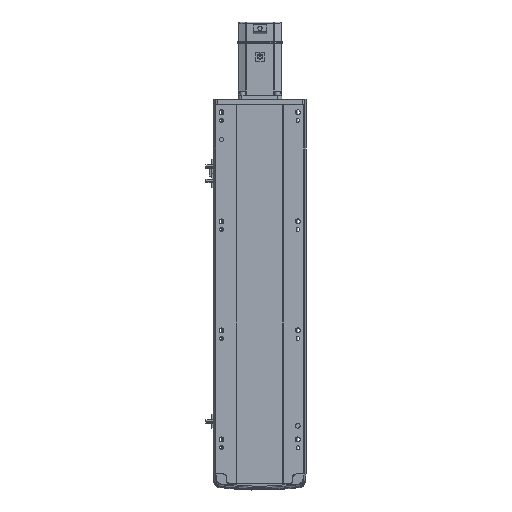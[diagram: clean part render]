
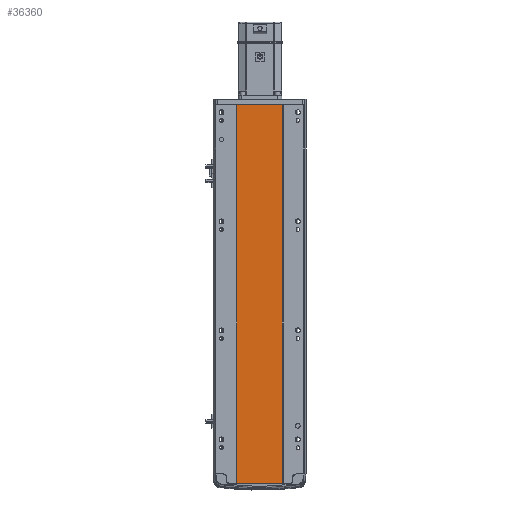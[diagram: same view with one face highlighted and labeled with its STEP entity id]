
A CAD part, front view. The second image highlights one B-rep face of the part: STEP entity #36360.
In plain terms, the highlighted planar face has unit normal (0, -1, 0).
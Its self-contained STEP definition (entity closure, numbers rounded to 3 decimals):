
#3551 = ORIENTED_EDGE ( 'NONE', *, *, #19247, .T. ) ;
#4070 = ORIENTED_EDGE ( 'NONE', *, *, #29257, .T. ) ;
#4577 = CARTESIAN_POINT ( 'NONE',  ( -41.791, 1., 0. ) ) ;
#4785 = ORIENTED_EDGE ( 'NONE', *, *, #34957, .F. ) ;
#6686 = EDGE_LOOP ( 'NONE', ( #3551, #4785, #45138, #4070 ) ) ;
#11199 = VERTEX_POINT ( 'NONE', #44526 ) ;
#12018 = CARTESIAN_POINT ( 'NONE',  ( -41.791, 1., 693.5 ) ) ;
#13053 = CARTESIAN_POINT ( 'NONE',  ( 0., 0.999, 0. ) ) ;
#14044 = PLANE ( 'NONE',  #43651 ) ;
#14556 = DIRECTION ( 'NONE',  ( 0., 1., 0. ) ) ;
#17284 = VECTOR ( 'NONE', #42656, 1000. ) ;
#17852 = DIRECTION ( 'NONE',  ( -1., 0., 0. ) ) ;
#19247 = EDGE_CURVE ( 'NONE', #46987, #11199, #48138, .T. ) ;
#19823 = LINE ( 'NONE', #50308, #17284 ) ;
#19824 = EDGE_CURVE ( 'NONE', #47444, #23774, #28834, .T. ) ;
#21166 = DIRECTION ( 'NONE',  ( 0., 0., -1. ) ) ;
#23774 = VERTEX_POINT ( 'NONE', #28401 ) ;
#25539 = DIRECTION ( 'NONE',  ( 1., 0., 0. ) ) ;
#28401 = CARTESIAN_POINT ( 'NONE',  ( 41.793, 0.998, 693.5 ) ) ;
#28834 = LINE ( 'NONE', #48609, #36930 ) ;
#29257 = EDGE_CURVE ( 'NONE', #47444, #46987, #41991, .T. ) ;
#34957 = EDGE_CURVE ( 'NONE', #23774, #11199, #19823, .T. ) ;
#36360 = ADVANCED_FACE ( 'NONE', ( #43262 ), #14044, .F. ) ;
#36930 = VECTOR ( 'NONE', #25539, 1000. ) ;
#37153 = CARTESIAN_POINT ( 'NONE',  ( -41.791, 1., 693.5 ) ) ;
#38333 = CARTESIAN_POINT ( 'NONE',  ( 0., 0.999, 693.5 ) ) ;
#38828 = VECTOR ( 'NONE', #49010, 1000. ) ;
#41991 = LINE ( 'NONE', #37153, #45709 ) ;
#42656 = DIRECTION ( 'NONE',  ( 0., 0., -1. ) ) ;
#43262 = FACE_OUTER_BOUND ( 'NONE', #6686, .T. ) ;
#43651 = AXIS2_PLACEMENT_3D ( 'NONE', #38333, #14556, #17852 ) ;
#44526 = CARTESIAN_POINT ( 'NONE',  ( 41.793, 0.998, 0. ) ) ;
#45138 = ORIENTED_EDGE ( 'NONE', *, *, #19824, .F. ) ;
#45709 = VECTOR ( 'NONE', #21166, 1000. ) ;
#46987 = VERTEX_POINT ( 'NONE', #4577 ) ;
#47444 = VERTEX_POINT ( 'NONE', #12018 ) ;
#48138 = LINE ( 'NONE', #13053, #38828 ) ;
#48609 = CARTESIAN_POINT ( 'NONE',  ( 0., 0.999, 693.5 ) ) ;
#49010 = DIRECTION ( 'NONE',  ( 1., 0., 0. ) ) ;
#50308 = CARTESIAN_POINT ( 'NONE',  ( 41.793, 0.998, 693.5 ) ) ;
